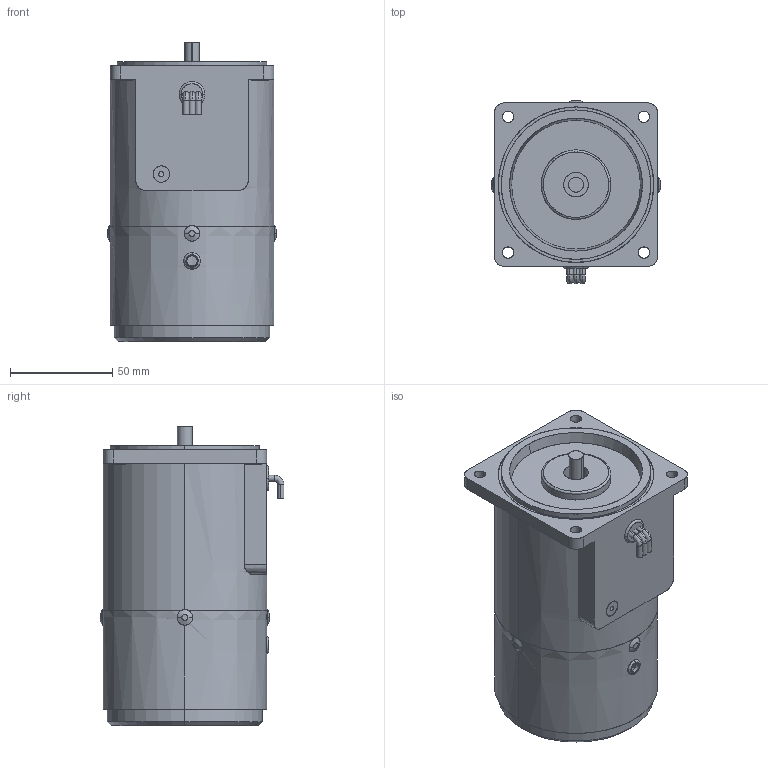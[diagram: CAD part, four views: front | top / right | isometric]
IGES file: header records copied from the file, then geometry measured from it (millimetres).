
Start section: SolidWorks IGES file using analytic representation for surfaces
Bounding box: 83 x 90 x 146.5 mm (x, y, z)
Surface area: 108296.6 mm2 (no closed solid volume)
Topology: 0 solids, 0 shells, 177 faces, 4506 edges, 4506 vertices
Faces by surface type: revolution 106, bspline 71
